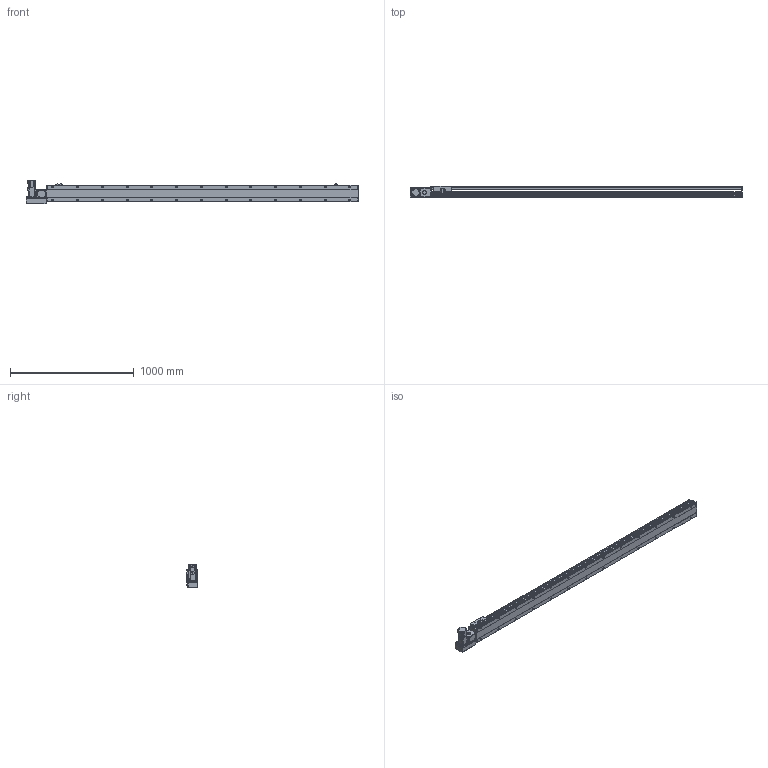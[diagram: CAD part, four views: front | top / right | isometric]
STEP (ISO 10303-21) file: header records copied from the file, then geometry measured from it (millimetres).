
FILE_DESCRIPTION(/* description */ ('STEP AP214'),/* implementation_level */ '2;1');
FILE_NAME(/* name */ 'PBS140S-P40-S2250-L-T40-C1-N(0)',/* time_stamp */ '2022-06-09T02:03:49+02:00',/* author */ ('License CC BY-ND 4.0'),/* organization */ ('CADENAS'),/* preprocessor_version */ 'ST-DEVELOPER v18.102',/* originating_system */ 'PARTsolutions',/* authorisation */ ' ');
FILE_SCHEMA (('AUTOMOTIVE_DESIGN {1 0 10303 214 3 1 1}'));
Length unit declared in the file: millimetre
Products named in the file (7): PBS140S-P40-S2250-L-T40-C1-N(0); PBS140S_sensor; PBS140S_plant; PBS140S_sliser; T40-p1; PBS140ST-L_motors; PBS140S-S2250()_body
Assembly tree (8 placements, depth 2):
  PBS140S-P40-S2250-L-T40-C1-N(0)
    PBS140S_sensor  x3
    PBS140S_plant
    PBS140S_sliser
    T40-p1
    PBS140ST-L_motors
    PBS140S-S2250()_body
Bounding box: 2683 x 93 x 189.7 mm (x, y, z)
Volume: 12732996.3 mm3; surface area: 2149982.8 mm2
Topology: 8 solids, 8 shells, 1179 faces, 3111 edges, 2035 vertices
Faces by surface type: plane 732, cylinder 385, cone 52, sphere 8, torus 2
Full cylindrical faces by diameter (mm): 3.242 x4, 4 x2, 4.134 x4, 4.4 x8, 4.5 x2, 4.8 x4, 4.917 x34, 5.5 x7, 6 x2, 7 x28, 7.5 x8, 8 x12, 8.5 x4, 10.5 x26, 14 x1, 30 x2, 50 x2
Entity records: 33786 total; most frequent: CARTESIAN_POINT 6376, DIRECTION 5698, ORIENTED_EDGE 5362, EDGE_CURVE 2681, AXIS2_PLACEMENT_3D 2009, VERTEX_POINT 1873, LINE 1680, VECTOR 1680
